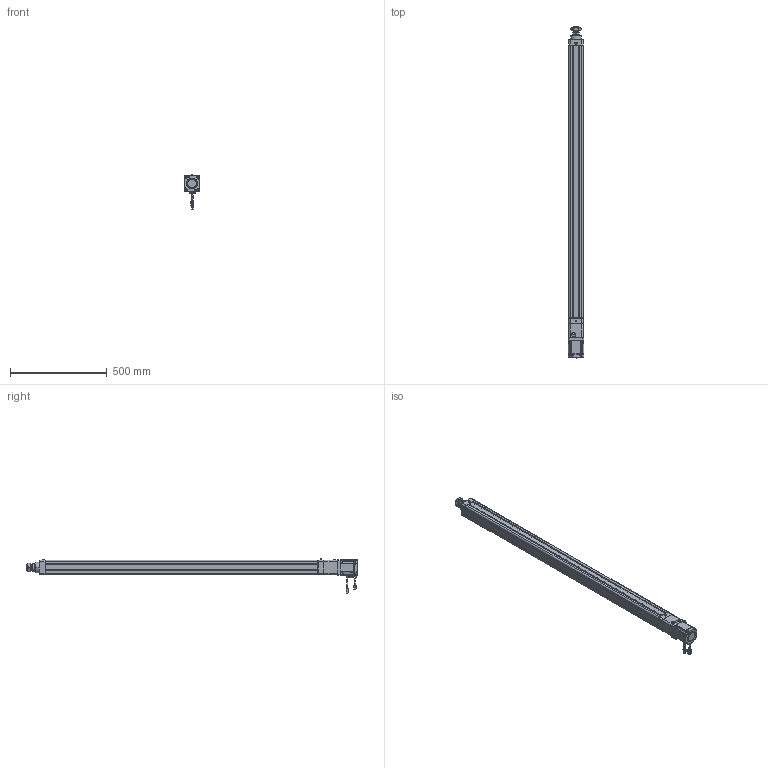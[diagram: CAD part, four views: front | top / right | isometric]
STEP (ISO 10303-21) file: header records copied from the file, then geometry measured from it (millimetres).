
FILE_DESCRIPTION((''),'2;1');
FILE_NAME('HE63-D-100-X1_ASM','2020-04-02T',('ASUS20200'),(''),'CREO PARAMETRIC BY PTC INC, 2014190','CREO PARAMETRIC BY PTC INC, 2014190','');
FILE_SCHEMA(('CONFIG_CONTROL_DESIGN'));
Length unit declared in the file: millimetre
Products named in the file (26): HE63-D-P-001-X1; HE63-D-P-002-X1; HE63-D-P-003-X1; LGLM-M8-22; HE63-D-009-X1; HE63-D-010-X1; M6X16; _MHMF082L1A2; _CABLE_MOTOR_BOTTOM_05; _CABLE_MOTOR_TOP_05; _MOTOR_CONNECTOR_2; _CABLE_BRAKE_BOTTOM_05; _CABLE_BRAKE_TOP_05; _MHMF_CONNECTOR_9_PIN_A6; MHMF082L1A2M2_1_ASM; SLM-01; YZ-M6X1; SKT-16; TD-6; JDB405030; JX6X6X25; HE63-D-P-005-X1; HE63-D-P-004-X1; HE63-D-P-008-X1; M6X25; HE63-D-100-X1_ASM
Assembly tree (41 placements, depth 3):
  HE63-D-100-X1_ASM
    HE63-D-P-001-X1
    HE63-D-P-002-X1
    HE63-D-P-003-X1
    LGLM-M8-22  x8
    HE63-D-009-X1
    HE63-D-010-X1
    M6X16  x4
    MHMF082L1A2M2_1_ASM
      _MHMF082L1A2
      _CABLE_MOTOR_BOTTOM_05
      _CABLE_MOTOR_TOP_05
      _MOTOR_CONNECTOR_2
      _CABLE_BRAKE_BOTTOM_05
      _CABLE_BRAKE_TOP_05
      _MHMF_CONNECTOR_9_PIN_A6
    SLM-01
    YZ-M6X1
    SKT-16
    TD-6  x4
    JDB405030
    JX6X6X25
    HE63-D-P-005-X1
    HE63-D-P-004-X1
    HE63-D-P-008-X1
    M6X25  x4
Bounding box: 80 x 1716.9 x 179.15 mm (x, y, z)
Volume: 4084435.4 mm3; surface area: 1257502.2 mm2
Topology: 40 solids, 68 shells, 2378 faces, 5823 edges, 3654 vertices
Faces by surface type: plane 1024, cylinder 706, cone 475, torus 126, sphere 44, bspline 3
Entity records: 59966 total; most frequent: CARTESIAN_POINT 11350, DIRECTION 10691, ORIENTED_EDGE 9542, EDGE_CURVE 4821, AXIS2_PLACEMENT_3D 4000, VERTEX_POINT 3053, VECTOR 2691, LINE 2691
